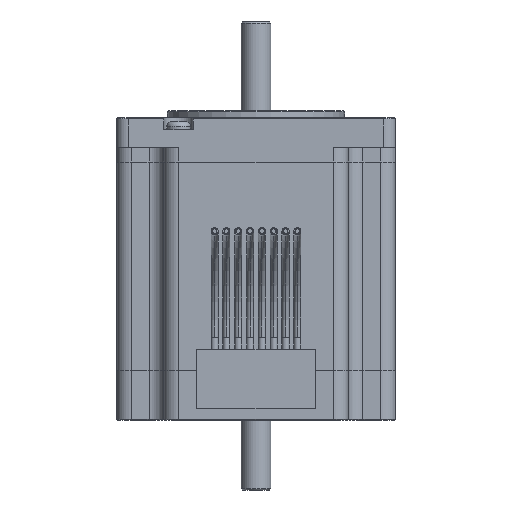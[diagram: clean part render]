
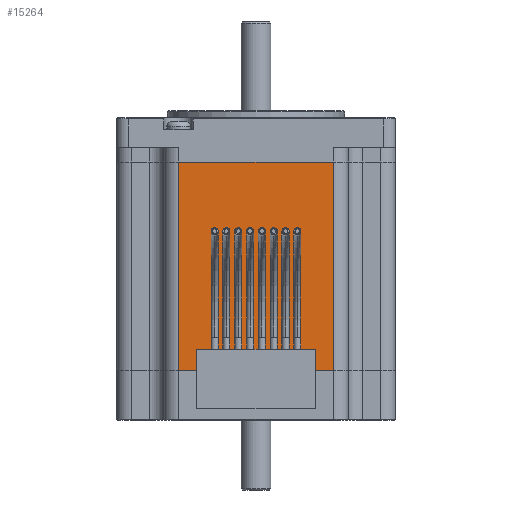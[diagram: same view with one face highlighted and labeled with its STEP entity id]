
A CAD part, front view. The second image highlights one B-rep face of the part: STEP entity #15264.
In plain terms, the highlighted planar face has unit normal (0, -1, 0).
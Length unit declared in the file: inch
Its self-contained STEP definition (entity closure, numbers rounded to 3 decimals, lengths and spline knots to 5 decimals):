
#286 = EDGE_CURVE ( 'NONE', #15935, #8982, #10433, .T. ) ;
#3600 = DIRECTION ( 'NONE',  ( -1., 0., 0. ) ) ;
#3601 = VECTOR ( 'NONE', #3600, 39.37008 ) ;
#3611 = CARTESIAN_POINT ( 'NONE',  ( 0.655, -1.179, -0.375 ) ) ;
#3612 = LINE ( 'NONE', #3611, #3601 ) ;
#3636 = CARTESIAN_POINT ( 'NONE',  ( 0.655, -1.179, -0.375 ) ) ;
#3649 = CARTESIAN_POINT ( 'NONE',  ( -0.655, -1.179, -0.375 ) ) ;
#5702 = PLANE ( 'NONE',  #5759 ) ;
#5759 = AXIS2_PLACEMENT_3D ( 'NONE', #5788, #5787, #5786 ) ;
#5760 = FACE_OUTER_BOUND ( 'NONE', #15707, .T. ) ;
#5780 = CARTESIAN_POINT ( 'NONE',  ( -0.655, -1.179, -2.135 ) ) ;
#5786 = DIRECTION ( 'NONE',  ( -1., 0., 0. ) ) ;
#5787 = DIRECTION ( 'NONE',  ( 0., 1., 0. ) ) ;
#5788 = CARTESIAN_POINT ( 'NONE',  ( 0.655, -1.179, -2.135 ) ) ;
#5790 = VECTOR ( 'NONE', #5826, 39.37008 ) ;
#5791 = CARTESIAN_POINT ( 'NONE',  ( -0.655, -1.179, -2.135 ) ) ;
#5792 = LINE ( 'NONE', #5791, #5790 ) ;
#5826 = DIRECTION ( 'NONE',  ( 0., 0., 1. ) ) ;
#5838 = CARTESIAN_POINT ( 'NONE',  ( 0.655, -1.179, -2.135 ) ) ;
#5839 = LINE ( 'NONE', #5838, #5877 ) ;
#5876 = DIRECTION ( 'NONE',  ( -1., 0., 0. ) ) ;
#5877 = VECTOR ( 'NONE', #5876, 39.37008 ) ;
#5881 = CARTESIAN_POINT ( 'NONE',  ( 0.655, -1.179, -2.135 ) ) ;
#8970 = EDGE_CURVE ( 'NONE', #8982, #8977, #3612, .T. ) ;
#8977 = VERTEX_POINT ( 'NONE', #3649 ) ;
#8982 = VERTEX_POINT ( 'NONE', #3636 ) ;
#10433 = LINE ( 'NONE', #10470, #10466 ) ;
#10465 = DIRECTION ( 'NONE',  ( 0., 0., 1. ) ) ;
#10466 = VECTOR ( 'NONE', #10465, 39.37008 ) ;
#10470 = CARTESIAN_POINT ( 'NONE',  ( 0.655, -1.179, -2.135 ) ) ;
#15264 = ADVANCED_FACE ( 'NONE', ( #5760 ), #5702, .F. ) ;
#15382 = VERTEX_POINT ( 'NONE', #5780 ) ;
#15396 = EDGE_CURVE ( 'NONE', #15382, #8977, #5792, .T. ) ;
#15398 = ORIENTED_EDGE ( 'NONE', *, *, #15396, .F. ) ;
#15707 = EDGE_LOOP ( 'NONE', ( #16309, #15398, #17531, #16131 ) ) ;
#15839 = EDGE_CURVE ( 'NONE', #15935, #15382, #5839, .T. ) ;
#15935 = VERTEX_POINT ( 'NONE', #5881 ) ;
#16131 = ORIENTED_EDGE ( 'NONE', *, *, #286, .T. ) ;
#16309 = ORIENTED_EDGE ( 'NONE', *, *, #8970, .T. ) ;
#17531 = ORIENTED_EDGE ( 'NONE', *, *, #15839, .F. ) ;
